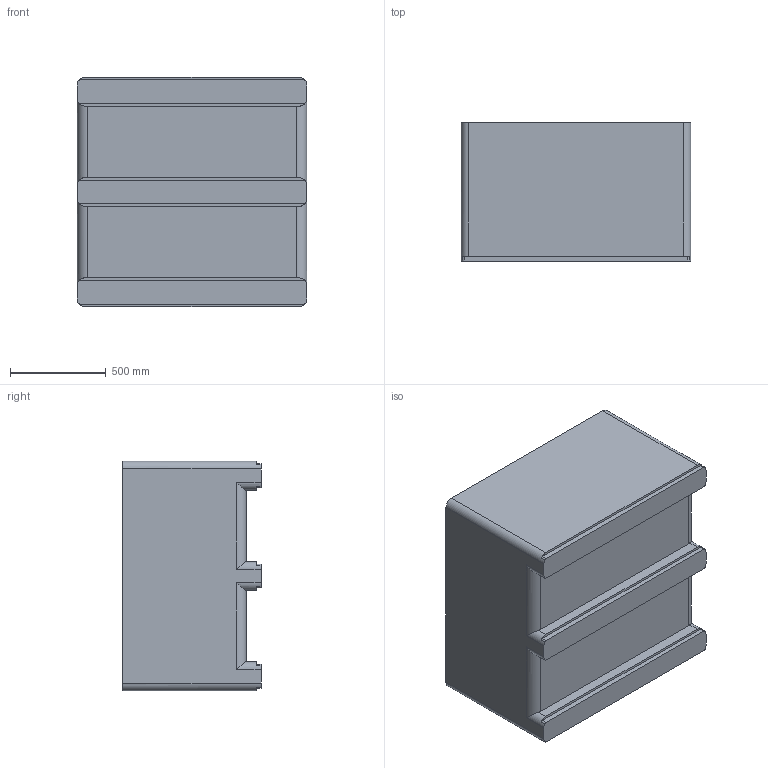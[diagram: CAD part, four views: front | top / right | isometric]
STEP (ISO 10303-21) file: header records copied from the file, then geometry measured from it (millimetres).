
FILE_DESCRIPTION (( 'STEP AP214' ), '1' );
FILE_NAME ('24S Block Model.STEP', '2013-06-03T15:29:38', ( 'Bryant Conder' ), ( '' ), 'SwSTEP 2.0', 'SolidWorks 2013', '' );
FILE_SCHEMA (( 'AUTOMOTIVE_DESIGN' ));
Length unit declared in the file: inch
Products named in the file (1): 24S Block Model
Bounding box: 1195 x 720.99 x 1195 mm (x, y, z)
Volume: 262872812.8 mm3; surface area: 8736848.7 mm2
Topology: 1 solids, 1 shells, 131 faces, 344 edges, 204 vertices
Faces by surface type: cylinder 64, plane 39, bspline 24, torus 4
Entity records: 5326 total; most frequent: CARTESIAN_POINT 2348, ORIENTED_EDGE 664, DIRECTION 572, EDGE_CURVE 332, AXIS2_PLACEMENT_3D 208, VERTEX_POINT 204, LINE 156, VECTOR 156
